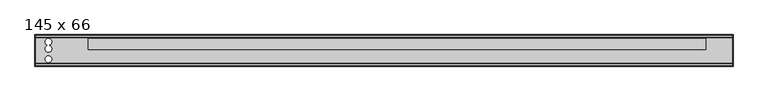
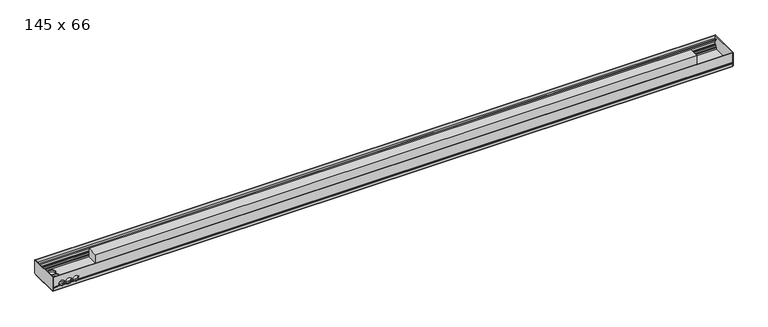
"""IFC4 building model written with IfcOpenShell, lengths in millimetres: proxy geometry, Mohlenhof_Внутрипольный конвектор_QSKM : 145 x 66."""

from ifc_helpers import new_model, si_unit, point, frame, frame_2d, origin, place, context, project, spatial, polyline, circle_curve, ellipse_curve, trimmed, segment, composite_curve, outline, extrude, source, transform, mapped, element, save
from ifc_brep_helpers import plane_surface, revolved_surface, advanced_brep


def proxy_145_x_66_776afb94(model_context):
    return source(origin(), model_context, "Body", "SolidModel", [
        advanced_brep(
        [(1598.0, -245.0, -48.5473602), (1598.0, -243.5, -49.2468216), (1598.0, -242.5, -49.2468216), (1598.0, -242.5, -46.0008038), (1598.0, -240.0, -46.0008038), (1598.0, -240.0, -56.5008038), (1598.0, -242.5, -56.5008038), (1598.0, -242.5, -53.2468216), (1598.0, -243.5, -53.2468216), (1598.0, -245.0, -53.9462831), (1598.0, -245.0, -66.5), (1598.0, -241.0, -66.5), (1598.0, -241.0, -65.2), (1598.0, -243.0, -65.2), (1598.0, -243.0, -62.5), (1598.0, -232.0, -62.5), (1598.0, -232.0, -54.9172677), (1598.0, -233.4172677, -53.5), (1598.0, -237.0, -53.5), (1598.0, -237.0, -45.91), (1598.0, -239.0, -43.91), (1598.0, -239.0, -39.5), (1598.0, -240.0, -39.5), (1598.0, -240.0, -43.5), (1598.0, -242.4956439, -43.5), (1598.0, -242.4956439, -23.0), (1598.0, -240.0, -23.0), (1598.0, -240.0, -27.0), (1598.0, -239.0, -27.0), (1598.0, -239.0, -17.0), (1598.0, -233.3956439, -17.0), (1598.0, -233.3956439, -15.0), (1598.0, -243.4, -15.0), (1598.0, -243.4, 0.0), (1598.0, -245.0, 0.0), (-1598.0, -245.0, -48.5473602), (-1598.0, -245.0, 0.0), (-1598.0, -243.4, 0.0), (-1598.0, -243.4, -15.0), (-1598.0, -233.3956439, -15.0), (-1598.0, -233.3956439, -17.0), (-1598.0, -239.0, -17.0), (-1598.0, -239.0, -27.0), (-1598.0, -240.0, -27.0), (-1598.0, -240.0, -23.0), (-1598.0, -242.4956439, -23.0), (-1598.0, -242.4956439, -43.5), (-1598.0, -240.0, -43.5), (-1598.0, -240.0, -39.5), (-1598.0, -239.0, -39.5), (-1598.0, -239.0, -43.91), (-1598.0, -237.0, -45.91), (-1598.0, -237.0, -53.5), (-1598.0, -233.4172677, -53.5), (-1598.0, -232.0, -54.9172677), (-1598.0, -232.0, -62.5), (-1598.0, -243.0, -62.5), (-1598.0, -243.0, -65.2), (-1598.0, -241.0, -65.2), (-1598.0, -241.0, -66.5), (-1598.0, -245.0, -66.5), (-1598.0, -245.0, -53.9462831), (-1598.0, -243.5, -53.2468216), (-1598.0, -242.5, -53.2468216), (-1598.0, -242.5, -56.5008038), (-1598.0, -240.0, -56.5008038), (-1598.0, -240.0, -46.0008038), (-1598.0, -242.5, -46.0008038), (-1598.0, -242.5, -49.2468216), (-1598.0, -243.5, -49.2468216), (-1478.7585985, -245.0, -48.5473602), (-1479.155283, -243.5, -49.2468216), (-1570.844717, -243.5, -49.2468216), (-1571.2414015, -245.0, -48.5473602), (-1538.2414015, -245.0, -48.5473602), (-1544.7585985, -245.0, -48.5473602), (-1545.155283, -243.5, -49.2468216), (-1537.844717, -243.5, -49.2468216), (-1505.2414015, -245.0, -48.5473602), (-1511.7585985, -245.0, -48.5473602), (-1512.155283, -243.5, -49.2468216), (-1504.844717, -243.5, -49.2468216), (-1479.155283, -242.5, -49.2468216), (-1570.844717, -242.5, -49.2468216), (-1545.155283, -242.5, -49.2468216), (-1537.844717, -242.5, -49.2468216), (-1512.155283, -242.5, -49.2468216), (-1504.844717, -242.5, -49.2468216), (-1477.6911648, -242.5, -46.0008038), (-1572.3088352, -242.5, -46.0008038), (-1543.6911648, -242.5, -46.0008038), (-1539.3088352, -242.5, -46.0008038), (-1510.6911648, -242.5, -46.0008038), (-1506.3088352, -242.5, -46.0008038), (-1477.6911648, -240.0, -46.0008038), (-1572.3088352, -240.0, -46.0008038), (-1543.6911648, -240.0, -46.0008038), (-1539.3088352, -240.0, -46.0008038), (-1510.6911648, -240.0, -46.0008038), (-1506.3088352, -240.0, -46.0008038), (-1567.328032, -242.5, -53.2468216), (-1548.671968, -242.5, -53.2468216), (-1534.328032, -242.5, -53.2468216), (-1515.671968, -242.5, -53.2468216), (-1501.328032, -242.5, -53.2468216), (-1482.671968, -242.5, -53.2468216), (-1482.671968, -243.5, -53.2468216), (-1567.328032, -243.5, -53.2468216), (-1548.671968, -243.5, -53.2468216), (-1534.328032, -243.5, -53.2468216), (-1515.671968, -243.5, -53.2468216), (-1501.328032, -243.5, -53.2468216), (-1483.6280208, -245.0, -53.9462831), (-1566.3719792, -245.0, -53.9462831), (-1549.6280208, -245.0, -53.9462831), (-1533.3719792, -245.0, -53.9462831), (-1516.6280208, -245.0, -53.9462831), (-1500.3719792, -245.0, -53.9462831), (-1564.7064841, -232.0, -54.9172677), (-1551.2935159, -232.0, -54.9172677), (-1531.7064841, -232.0, -54.9172677), (-1518.2935159, -232.0, -54.9172677), (-1498.7064841, -232.0, -54.9172677), (-1485.2935159, -232.0, -54.9172677), (-1483.0, -233.4172677, -53.5), (-1567.0, -233.4172677, -53.5), (-1549.0, -233.4172677, -53.5), (-1534.0, -233.4172677, -53.5), (-1516.0, -233.4172677, -53.5), (-1501.0, -233.4172677, -53.5), (-1483.0, -237.0, -53.5), (-1567.0, -237.0, -53.5), (-1549.0, -237.0, -53.5), (-1534.0, -237.0, -53.5), (-1516.0, -237.0, -53.5), (-1501.0, -237.0, -53.5), (-1477.6629187, -237.0, -45.91), (-1572.3370813, -237.0, -45.91), (-1543.6629187, -237.0, -45.91), (-1539.3370813, -237.0, -45.91), (-1510.6629187, -237.0, -45.91), (-1506.3370813, -237.0, -45.91), (-1477.1948691, -239.0, -43.91), (-1572.8051309, -239.0, -43.91), (-1543.1948691, -239.0, -43.91), (-1539.8051309, -239.0, -43.91), (-1510.1948691, -239.0, -43.91), (-1506.8051309, -239.0, -43.91), (-1477.0, -239.0, -41.5), (-1477.1339313, -239.0, -39.5), (-1572.8660687, -239.0, -39.5), (-1573.0, -239.0, -41.5), (-1543.0, -239.0, -41.5), (-1543.1339313, -239.0, -39.5), (-1539.8660687, -239.0, -39.5), (-1540.0, -239.0, -41.5), (-1510.0, -239.0, -41.5), (-1510.1339313, -239.0, -39.5), (-1506.8660687, -239.0, -39.5), (-1507.0, -239.0, -41.5), (-1477.1339313, -240.0, -39.5), (-1572.8660687, -240.0, -39.5), (-1543.1339313, -240.0, -39.5), (-1539.8660687, -240.0, -39.5), (-1510.1339313, -240.0, -39.5), (-1506.8660687, -240.0, -39.5), (-1477.0, -240.0, -41.5), (-1477.1339313, -240.0, -43.5), (-1572.8660687, -240.0, -43.5), (-1573.0, -240.0, -41.5), (-1543.0, -240.0, -41.5), (-1543.1339313, -240.0, -43.5), (-1539.8660687, -240.0, -43.5), (-1540.0, -240.0, -41.5), (-1510.0, -240.0, -41.5), (-1510.1339313, -240.0, -43.5), (-1506.8660687, -240.0, -43.5), (-1507.0, -240.0, -41.5), (-1477.1339313, -242.4956439, -43.5), (-1572.8660687, -242.4956439, -43.5), (-1543.1339313, -242.4956439, -43.5), (-1539.8660687, -242.4956439, -43.5), (-1510.1339313, -242.4956439, -43.5), (-1506.8660687, -242.4956439, -43.5), (-1477.0, -242.4956439, -41.5), (-1507.0, -242.4956439, -41.5), (-1510.0, -242.4956439, -41.5), (-1540.0, -242.4956439, -41.5), (-1543.0, -242.4956439, -41.5), (-1573.0, -242.4956439, -41.5), (-1561.8405729, -240.0, -27.0), (-1554.1594271, -240.0, -27.0), (-1528.8405729, -240.0, -27.0), (-1521.1594271, -240.0, -27.0), (-1495.8405729, -240.0, -27.0), (-1488.1594271, -240.0, -27.0), (-1488.1594271, -239.0, -27.0), (-1561.8405729, -239.0, -27.0), (-1554.1594271, -239.0, -27.0), (-1528.8405729, -239.0, -27.0), (-1521.1594271, -239.0, -27.0), (-1495.8405729, -239.0, -27.0), (-1573.0, -245.0, -41.5), (-1543.0, -245.0, -41.5), (-1540.0, -245.0, -41.5), (-1510.0, -245.0, -41.5), (-1507.0, -245.0, -41.5), (-1477.0, -245.0, -41.5)],
        [
            (0, 1),
            (1, 2),
            (2, 3),
            (3, 4),
            (4, 5),
            (5, 6),
            (6, 7),
            (7, 8),
            (8, 9),
            (9, 10),
            (10, 11),
            (11, 12),
            (12, 13),
            (13, 14),
            (14, 15),
            (15, 16),
            (16, 17),
            (17, 18),
            (18, 19),
            (19, 20),
            (20, 21),
            (21, 22),
            (22, 23),
            (23, 24),
            (24, 25),
            (25, 26),
            (26, 27),
            (27, 28),
            (28, 29),
            (29, 30),
            (30, 31),
            (31, 32),
            (32, 33),
            (33, 34),
            (34, 0),
            (35, 36),
            (36, 37),
            (37, 38),
            (38, 39),
            (39, 40),
            (40, 41),
            (41, 42),
            (42, 43),
            (43, 44),
            (44, 45),
            (45, 46),
            (46, 47),
            (47, 48),
            (48, 49),
            (49, 50),
            (50, 51),
            (51, 52),
            (52, 53),
            (53, 54),
            (54, 55),
            (55, 56),
            (56, 57),
            (57, 58),
            (58, 59),
            (59, 60),
            (60, 61),
            (61, 62),
            (62, 63),
            (63, 64),
            (64, 65),
            (65, 66),
            (66, 67),
            (67, 68),
            (68, 69),
            (69, 35),
            (0, 70),
            (70, 71, ellipse_curve(frame((-1492.0, -260.1131126, -41.5), z_axis=(0.0, 0.42261826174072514, 0.9063077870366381), x_axis=(0.0, -0.9063077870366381, 0.42261826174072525)), 35.4930237, 15.0)),
            (71, 1),
            (69, 72),
            (72, 73, ellipse_curve(frame((-1558.0, -260.1131126, -41.5), z_axis=(0.0, 0.42261826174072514, 0.9063077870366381), x_axis=(0.0, -0.9063077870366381, 0.42261826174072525)), 35.4930237, 15.0)),
            (73, 35),
            (74, 75),
            (75, 76, ellipse_curve(frame((-1558.0, -260.1131126, -41.5), z_axis=(0.0, 0.42261826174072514, 0.9063077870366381), x_axis=(0.0, -0.9063077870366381, 0.42261826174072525)), 35.4930237, 15.0)),
            (76, 77),
            (77, 74, ellipse_curve(frame((-1525.0, -260.1131126, -41.5), z_axis=(0.0, 0.42261826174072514, 0.9063077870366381), x_axis=(0.0, -0.9063077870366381, 0.42261826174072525)), 35.4930237, 15.0)),
            (78, 79),
            (79, 80, ellipse_curve(frame((-1525.0, -260.1131126, -41.5), z_axis=(0.0, 0.42261826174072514, 0.9063077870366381), x_axis=(0.0, -0.9063077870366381, 0.42261826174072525)), 35.4930237, 15.0)),
            (80, 81),
            (81, 78, ellipse_curve(frame((-1492.0, -260.1131126, -41.5), z_axis=(0.0, 0.42261826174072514, 0.9063077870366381), x_axis=(0.0, -0.9063077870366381, 0.42261826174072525)), 35.4930237, 15.0)),
            (71, 82),
            (82, 2),
            (68, 83),
            (83, 72),
            (76, 84),
            (84, 85),
            (85, 77),
            (80, 86),
            (86, 87),
            (87, 81),
            (82, 88, circle_curve(frame((-1492.0, -242.5, -41.5), z_axis=(0.0, -1.0, 0.0), x_axis=(1.0, 0.0, 0.0)), 15.0)),
            (88, 3),
            (67, 89),
            (89, 83, circle_curve(frame((-1558.0, -242.5, -41.5), z_axis=(0.0, -1.0, 0.0), x_axis=(1.0, 0.0, 0.0)), 15.0)),
            (84, 90, circle_curve(frame((-1558.0, -242.5, -41.5), z_axis=(0.0, -1.0, 0.0), x_axis=(1.0, 0.0, 0.0)), 15.0)),
            (90, 91),
            (91, 85, circle_curve(frame((-1525.0, -242.5, -41.5), z_axis=(0.0, -1.0, 0.0), x_axis=(1.0, 0.0, 0.0)), 15.0)),
            (86, 92, circle_curve(frame((-1525.0, -242.5, -41.5), z_axis=(0.0, -1.0, 0.0), x_axis=(1.0, 0.0, 0.0)), 15.0)),
            (92, 93),
            (93, 87, circle_curve(frame((-1492.0, -242.5, -41.5), z_axis=(0.0, -1.0, 0.0), x_axis=(1.0, 0.0, 0.0)), 15.0)),
            (88, 94),
            (94, 4),
            (66, 95),
            (95, 89),
            (90, 96),
            (96, 97),
            (97, 91),
            (92, 98),
            (98, 99),
            (99, 93),
            (94, 99, circle_curve(frame((-1492.0, -240.0, -41.5), z_axis=(0.0, 1.0, 0.0), x_axis=(1.0, 0.0, 0.0)), 15.0)),
            (98, 97, circle_curve(frame((-1525.0, -240.0, -41.5), z_axis=(0.0, 1.0, 0.0), x_axis=(1.0, 0.0, 0.0)), 15.0)),
            (96, 95, circle_curve(frame((-1558.0, -240.0, -41.5), z_axis=(0.0, 1.0, 0.0), x_axis=(1.0, 0.0, 0.0)), 15.0)),
            (65, 5),
            (64, 6),
            (63, 100),
            (100, 101, circle_curve(frame((-1558.0, -242.5, -41.5), z_axis=(0.0, -1.0, 0.0), x_axis=(1.0, 0.0, 0.0)), 15.0)),
            (101, 102),
            (102, 103, circle_curve(frame((-1525.0, -242.5, -41.5), z_axis=(0.0, -1.0, 0.0), x_axis=(1.0, 0.0, 0.0)), 15.0)),
            (103, 104),
            (104, 105, circle_curve(frame((-1492.0, -242.5, -41.5), z_axis=(0.0, -1.0, 0.0), x_axis=(1.0, 0.0, 0.0)), 15.0)),
            (105, 7),
            (105, 106),
            (106, 8),
            (62, 107),
            (107, 100),
            (101, 108),
            (108, 109),
            (109, 102),
            (103, 110),
            (110, 111),
            (111, 104),
            (106, 112, ellipse_curve(frame((-1492.0, -218.3088597, -41.5), z_axis=(0.0, 0.42261826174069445, -0.9063077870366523), x_axis=(0.0, -0.9063077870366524, -0.42261826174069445)), 35.4930237, 15.0)),
            (112, 9),
            (61, 113),
            (113, 107, ellipse_curve(frame((-1558.0, -218.3088597, -41.5), z_axis=(0.0, 0.42261826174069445, -0.9063077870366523), x_axis=(0.0, -0.9063077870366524, -0.42261826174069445)), 35.4930237, 15.0)),
            (108, 114, ellipse_curve(frame((-1558.0, -218.3088597, -41.5), z_axis=(0.0, 0.42261826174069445, -0.9063077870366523), x_axis=(0.0, -0.9063077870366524, -0.42261826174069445)), 35.4930237, 15.0)),
            (114, 115),
            (115, 109, ellipse_curve(frame((-1525.0, -218.3088597, -41.5), z_axis=(0.0, 0.42261826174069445, -0.9063077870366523), x_axis=(0.0, -0.9063077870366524, -0.42261826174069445)), 35.4930237, 15.0)),
            (110, 116, ellipse_curve(frame((-1525.0, -218.3088597, -41.5), z_axis=(0.0, 0.42261826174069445, -0.9063077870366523), x_axis=(0.0, -0.9063077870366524, -0.42261826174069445)), 35.4930237, 15.0)),
            (116, 117),
            (117, 111, ellipse_curve(frame((-1492.0, -218.3088597, -41.5), z_axis=(0.0, 0.42261826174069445, -0.9063077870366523), x_axis=(0.0, -0.9063077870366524, -0.42261826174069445)), 35.4930237, 15.0)),
            (112, 117, circle_curve(frame((-1492.0, -245.0, -41.5), z_axis=(0.0, 1.0, 0.0), x_axis=(1.0, 0.0, 0.0)), 15.0)),
            (116, 115, circle_curve(frame((-1525.0, -245.0, -41.5), z_axis=(0.0, 1.0, 0.0), x_axis=(1.0, 0.0, 0.0)), 15.0)),
            (114, 113, circle_curve(frame((-1558.0, -245.0, -41.5), z_axis=(0.0, 1.0, 0.0), x_axis=(1.0, 0.0, 0.0)), 15.0)),
            (60, 10),
            (59, 11),
            (58, 12),
            (57, 13),
            (56, 14),
            (55, 15),
            (54, 118),
            (118, 119, circle_curve(frame((-1558.0, -232.0, -41.5), z_axis=(0.0, -1.0, 0.0), x_axis=(1.0, 0.0, 0.0)), 15.0)),
            (119, 120),
            (120, 121, circle_curve(frame((-1525.0, -232.0, -41.5), z_axis=(0.0, -1.0, 0.0), x_axis=(1.0, 0.0, 0.0)), 15.0)),
            (121, 122),
            (122, 123, circle_curve(frame((-1492.0, -232.0, -41.5), z_axis=(0.0, -1.0, 0.0), x_axis=(1.0, 0.0, 0.0)), 15.0)),
            (123, 16),
            (123, 124, ellipse_curve(frame((-1492.0, -245.4172677, -41.5), z_axis=(0.0, -0.7071067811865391, -0.707106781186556), x_axis=(0.0, -0.7071067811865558, 0.7071067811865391)), 21.2132034, 15.0)),
            (124, 17),
            (53, 125),
            (125, 118, ellipse_curve(frame((-1558.0, -245.4172677, -41.5), z_axis=(0.0, -0.7071067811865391, -0.707106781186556), x_axis=(0.0, -0.7071067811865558, 0.7071067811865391)), 21.2132034, 15.0)),
            (119, 126, ellipse_curve(frame((-1558.0, -245.4172677, -41.5), z_axis=(0.0, -0.7071067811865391, -0.707106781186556), x_axis=(0.0, -0.7071067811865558, 0.7071067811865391)), 21.2132034, 15.0)),
            (126, 127),
            (127, 120, ellipse_curve(frame((-1525.0, -245.4172677, -41.5), z_axis=(0.0, -0.7071067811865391, -0.707106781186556), x_axis=(0.0, -0.7071067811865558, 0.7071067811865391)), 21.2132034, 15.0)),
            (121, 128, ellipse_curve(frame((-1525.0, -245.4172677, -41.5), z_axis=(0.0, -0.7071067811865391, -0.707106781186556), x_axis=(0.0, -0.7071067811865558, 0.7071067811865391)), 21.2132034, 15.0)),
            (128, 129),
            (129, 122, ellipse_curve(frame((-1492.0, -245.4172677, -41.5), z_axis=(0.0, -0.7071067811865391, -0.707106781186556), x_axis=(0.0, -0.7071067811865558, 0.7071067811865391)), 21.2132034, 15.0)),
            (124, 130),
            (130, 18),
            (52, 131),
            (131, 125),
            (126, 132),
            (132, 133),
            (133, 127),
            (128, 134),
            (134, 135),
            (135, 129),
            (130, 136, circle_curve(frame((-1492.0, -237.0, -41.5), z_axis=(0.0, -1.0, 0.0), x_axis=(1.0, 0.0, 0.0)), 15.0)),
            (136, 19),
            (51, 137),
            (137, 131, circle_curve(frame((-1558.0, -237.0, -41.5), z_axis=(0.0, -1.0, 0.0), x_axis=(1.0, 0.0, 0.0)), 15.0)),
            (132, 138, circle_curve(frame((-1558.0, -237.0, -41.5), z_axis=(0.0, -1.0, 0.0), x_axis=(1.0, 0.0, 0.0)), 15.0)),
            (138, 139),
            (139, 133, circle_curve(frame((-1525.0, -237.0, -41.5), z_axis=(0.0, -1.0, 0.0), x_axis=(1.0, 0.0, 0.0)), 15.0)),
            (134, 140, circle_curve(frame((-1525.0, -237.0, -41.5), z_axis=(0.0, -1.0, 0.0), x_axis=(1.0, 0.0, 0.0)), 15.0)),
            (140, 141),
            (141, 135, circle_curve(frame((-1492.0, -237.0, -41.5), z_axis=(0.0, -1.0, 0.0), x_axis=(1.0, 0.0, 0.0)), 15.0)),
            (136, 142, ellipse_curve(frame((-1492.0, -241.41, -41.5), z_axis=(0.0, -0.7071067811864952, -0.7071067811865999), x_axis=(0.0, -0.7071067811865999, 0.7071067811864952)), 21.2132034, 15.0)),
            (142, 20),
            (50, 143),
            (143, 137, ellipse_curve(frame((-1558.0, -241.41, -41.5), z_axis=(0.0, -0.7071067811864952, -0.7071067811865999), x_axis=(0.0, -0.7071067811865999, 0.7071067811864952)), 21.2132034, 15.0)),
            (138, 144, ellipse_curve(frame((-1558.0, -241.41, -41.5), z_axis=(0.0, -0.7071067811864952, -0.7071067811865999), x_axis=(0.0, -0.7071067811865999, 0.7071067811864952)), 21.2132034, 15.0)),
            (144, 145),
            (145, 139, ellipse_curve(frame((-1525.0, -241.41, -41.5), z_axis=(0.0, -0.7071067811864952, -0.7071067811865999), x_axis=(0.0, -0.7071067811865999, 0.7071067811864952)), 21.2132034, 15.0)),
            (140, 146, ellipse_curve(frame((-1525.0, -241.41, -41.5), z_axis=(0.0, -0.7071067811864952, -0.7071067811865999), x_axis=(0.0, -0.7071067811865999, 0.7071067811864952)), 21.2132034, 15.0)),
            (146, 147),
            (147, 141, ellipse_curve(frame((-1492.0, -241.41, -41.5), z_axis=(0.0, -0.7071067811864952, -0.7071067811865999), x_axis=(0.0, -0.7071067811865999, 0.7071067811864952)), 21.2132034, 15.0)),
            (142, 148, circle_curve(frame((-1492.0, -239.0, -41.5), z_axis=(0.0, -1.0, 0.0), x_axis=(1.0, 0.0, 0.0)), 15.0)),
            (148, 149, circle_curve(frame((-1492.0, -239.0, -41.5), z_axis=(0.0, -1.0, 0.0), x_axis=(1.0, 0.0, 0.0)), 15.0)),
            (149, 21),
            (49, 150),
            (150, 151, circle_curve(frame((-1558.0, -239.0, -41.5), z_axis=(0.0, -1.0, 0.0), x_axis=(1.0, 0.0, 0.0)), 15.0)),
            (151, 143, circle_curve(frame((-1558.0, -239.0, -41.5), z_axis=(0.0, -1.0, 0.0), x_axis=(1.0, 0.0, 0.0)), 15.0)),
            (144, 152, circle_curve(frame((-1558.0, -239.0, -41.5), z_axis=(0.0, -1.0, 0.0), x_axis=(1.0, 0.0, 0.0)), 15.0)),
            (152, 153, circle_curve(frame((-1558.0, -239.0, -41.5), z_axis=(0.0, -1.0, 0.0), x_axis=(1.0, 0.0, 0.0)), 15.0)),
            (153, 154),
            (154, 155, circle_curve(frame((-1525.0, -239.0, -41.5), z_axis=(0.0, -1.0, 0.0), x_axis=(1.0, 0.0, 0.0)), 15.0)),
            (155, 145, circle_curve(frame((-1525.0, -239.0, -41.5), z_axis=(0.0, -1.0, 0.0), x_axis=(1.0, 0.0, 0.0)), 15.0)),
            (146, 156, circle_curve(frame((-1525.0, -239.0, -41.5), z_axis=(0.0, -1.0, 0.0), x_axis=(1.0, 0.0, 0.0)), 15.0)),
            (156, 157, circle_curve(frame((-1525.0, -239.0, -41.5), z_axis=(0.0, -1.0, 0.0), x_axis=(1.0, 0.0, 0.0)), 15.0)),
            (157, 158),
            (158, 159, circle_curve(frame((-1492.0, -239.0, -41.5), z_axis=(0.0, -1.0, 0.0), x_axis=(1.0, 0.0, 0.0)), 15.0)),
            (159, 147, circle_curve(frame((-1492.0, -239.0, -41.5), z_axis=(0.0, -1.0, 0.0), x_axis=(1.0, 0.0, 0.0)), 15.0)),
            (149, 160),
            (160, 22),
            (48, 161),
            (161, 150),
            (153, 162),
            (162, 163),
            (163, 154),
            (157, 164),
            (164, 165),
            (165, 158),
            (160, 166, circle_curve(frame((-1492.0, -240.0, -41.5), z_axis=(0.0, 1.0, 0.0), x_axis=(1.0, 0.0, 0.0)), 15.0)),
            (166, 167, circle_curve(frame((-1492.0, -240.0, -41.5), z_axis=(0.0, 1.0, 0.0), x_axis=(1.0, 0.0, 0.0)), 15.0)),
            (167, 23),
            (47, 168),
            (168, 169, circle_curve(frame((-1558.0, -240.0, -41.5), z_axis=(0.0, 1.0, 0.0), x_axis=(1.0, 0.0, 0.0)), 15.0)),
            (169, 161, circle_curve(frame((-1558.0, -240.0, -41.5), z_axis=(0.0, 1.0, 0.0), x_axis=(1.0, 0.0, 0.0)), 15.0)),
            (162, 170, circle_curve(frame((-1558.0, -240.0, -41.5), z_axis=(0.0, 1.0, 0.0), x_axis=(1.0, 0.0, 0.0)), 15.0)),
            (170, 171, circle_curve(frame((-1558.0, -240.0, -41.5), z_axis=(0.0, 1.0, 0.0), x_axis=(1.0, 0.0, 0.0)), 15.0)),
            (171, 172),
            (172, 173, circle_curve(frame((-1525.0, -240.0, -41.5), z_axis=(0.0, 1.0, 0.0), x_axis=(1.0, 0.0, 0.0)), 15.0)),
            (173, 163, circle_curve(frame((-1525.0, -240.0, -41.5), z_axis=(0.0, 1.0, 0.0), x_axis=(1.0, 0.0, 0.0)), 15.0)),
            (164, 174, circle_curve(frame((-1525.0, -240.0, -41.5), z_axis=(0.0, 1.0, 0.0), x_axis=(1.0, 0.0, 0.0)), 15.0)),
            (174, 175, circle_curve(frame((-1525.0, -240.0, -41.5), z_axis=(0.0, 1.0, 0.0), x_axis=(1.0, 0.0, 0.0)), 15.0)),
            (175, 176),
            (176, 177, circle_curve(frame((-1492.0, -240.0, -41.5), z_axis=(0.0, 1.0, 0.0), x_axis=(1.0, 0.0, 0.0)), 15.0)),
            (177, 165, circle_curve(frame((-1492.0, -240.0, -41.5), z_axis=(0.0, 1.0, 0.0), x_axis=(1.0, 0.0, 0.0)), 15.0)),
            (167, 178),
            (178, 24),
            (46, 179),
            (179, 168),
            (171, 180),
            (180, 181),
            (181, 172),
            (175, 182),
            (182, 183),
            (183, 176),
            (178, 184, circle_curve(frame((-1492.0, -242.4956439, -41.5), z_axis=(0.0, -1.0, 0.0), x_axis=(1.0, 0.0, 0.0)), 15.0)),
            (184, 185, circle_curve(frame((-1492.0, -242.4956439, -41.5), z_axis=(0.0, -1.0, 0.0), x_axis=(1.0, 0.0, 0.0)), 15.0)),
            (185, 183, circle_curve(frame((-1492.0, -242.4956439, -41.5), z_axis=(0.0, -1.0, 0.0), x_axis=(1.0, 0.0, 0.0)), 15.0)),
            (182, 186, circle_curve(frame((-1525.0, -242.4956439, -41.5), z_axis=(0.0, -1.0, 0.0), x_axis=(1.0, 0.0, 0.0)), 15.0)),
            (186, 187, circle_curve(frame((-1525.0, -242.4956439, -41.5), z_axis=(0.0, -1.0, 0.0), x_axis=(1.0, 0.0, 0.0)), 15.0)),
            (187, 181, circle_curve(frame((-1525.0, -242.4956439, -41.5), z_axis=(0.0, -1.0, 0.0), x_axis=(1.0, 0.0, 0.0)), 15.0)),
            (180, 188, circle_curve(frame((-1558.0, -242.4956439, -41.5), z_axis=(0.0, -1.0, 0.0), x_axis=(1.0, 0.0, 0.0)), 15.0)),
            (188, 189, circle_curve(frame((-1558.0, -242.4956439, -41.5), z_axis=(0.0, -1.0, 0.0), x_axis=(1.0, 0.0, 0.0)), 15.0)),
            (189, 179, circle_curve(frame((-1558.0, -242.4956439, -41.5), z_axis=(0.0, -1.0, 0.0), x_axis=(1.0, 0.0, 0.0)), 15.0)),
            (45, 25),
            (44, 26),
            (43, 190),
            (190, 191, circle_curve(frame((-1558.0, -240.0, -41.5), z_axis=(0.0, 1.0, 0.0), x_axis=(1.0, 0.0, 0.0)), 15.0)),
            (191, 192),
            (192, 193, circle_curve(frame((-1525.0, -240.0, -41.5), z_axis=(0.0, 1.0, 0.0), x_axis=(1.0, 0.0, 0.0)), 15.0)),
            (193, 194),
            (194, 195, circle_curve(frame((-1492.0, -240.0, -41.5), z_axis=(0.0, 1.0, 0.0), x_axis=(1.0, 0.0, 0.0)), 15.0)),
            (195, 27),
            (195, 196),
            (196, 28),
            (42, 197),
            (197, 190),
            (191, 198),
            (198, 199),
            (199, 192),
            (193, 200),
            (200, 201),
            (201, 194),
            (196, 201, circle_curve(frame((-1492.0, -239.0, -41.5), z_axis=(0.0, -1.0, 0.0), x_axis=(1.0, 0.0, 0.0)), 15.0)),
            (200, 199, circle_curve(frame((-1525.0, -239.0, -41.5), z_axis=(0.0, -1.0, 0.0), x_axis=(1.0, 0.0, 0.0)), 15.0)),
            (198, 197, circle_curve(frame((-1558.0, -239.0, -41.5), z_axis=(0.0, -1.0, 0.0), x_axis=(1.0, 0.0, 0.0)), 15.0)),
            (41, 29),
            (40, 30),
            (39, 31),
            (38, 32),
            (37, 33),
            (36, 34),
            (73, 202, circle_curve(frame((-1558.0, -245.0, -41.5), z_axis=(0.0, 1.0, 0.0), x_axis=(1.0, 0.0, 0.0)), 15.0)),
            (202, 203, circle_curve(frame((-1558.0, -245.0, -41.5), z_axis=(0.0, 1.0, 0.0), x_axis=(1.0, 0.0, 0.0)), 15.0)),
            (203, 75, circle_curve(frame((-1558.0, -245.0, -41.5), z_axis=(0.0, 1.0, 0.0), x_axis=(1.0, 0.0, 0.0)), 15.0)),
            (74, 204, circle_curve(frame((-1525.0, -245.0, -41.5), z_axis=(0.0, 1.0, 0.0), x_axis=(1.0, 0.0, 0.0)), 15.0)),
            (204, 205, circle_curve(frame((-1525.0, -245.0, -41.5), z_axis=(0.0, 1.0, 0.0), x_axis=(1.0, 0.0, 0.0)), 15.0)),
            (205, 79, circle_curve(frame((-1525.0, -245.0, -41.5), z_axis=(0.0, 1.0, 0.0), x_axis=(1.0, 0.0, 0.0)), 15.0)),
            (78, 206, circle_curve(frame((-1492.0, -245.0, -41.5), z_axis=(0.0, 1.0, 0.0), x_axis=(1.0, 0.0, 0.0)), 15.0)),
            (206, 207, circle_curve(frame((-1492.0, -245.0, -41.5), z_axis=(0.0, 1.0, 0.0), x_axis=(1.0, 0.0, 0.0)), 15.0)),
            (207, 70, circle_curve(frame((-1492.0, -245.0, -41.5), z_axis=(0.0, 1.0, 0.0), x_axis=(1.0, 0.0, 0.0)), 15.0)),
            (151, 169),
            (189, 202),
            (203, 188),
            (170, 152),
            (155, 173),
            (187, 204),
            (205, 186),
            (174, 156),
            (159, 177),
            (185, 206),
            (207, 184),
            (166, 148),
        ],
        [
            plane_surface(frame((1598.0, -243.0, -62.5), z_axis=(1.0, 0.0, 0.0), x_axis=(0.0, 0.0, 1.0))),
            plane_surface(frame((-1598.0, -243.0, -62.5), z_axis=(-1.0, 0.0, 0.0), x_axis=(0.0, 0.0, 1.0))),
            plane_surface(frame((1598.0, -245.0, -48.5473602), z_axis=(0.0, -0.42261826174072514, -0.9063077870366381), x_axis=(-1.0, 0.0, 0.0))),
            plane_surface(frame((1598.0, -243.5, -49.2468216), z_axis=(0.0, 0.0, -1.0), x_axis=(-1.0, 0.0, 0.0))),
            plane_surface(frame((1598.0, -242.5, -49.2468216), z_axis=(0.0, 1.0, 0.0), x_axis=(-1.0, 0.0, 0.0))),
            plane_surface(frame((1598.0, -242.5, -46.0008038), z_axis=(0.0, 0.0, -1.0), x_axis=(-1.0, 0.0, 0.0))),
            plane_surface(frame((1598.0, -240.0, -46.0008038), z_axis=(0.0, -1.0, 0.0), x_axis=(-1.0, 0.0, 0.0))),
            plane_surface(frame((1598.0, -240.0, -56.5008038), z_axis=(0.0, 0.0, 1.0), x_axis=(-1.0, 0.0, 0.0))),
            plane_surface(frame((1598.0, -242.5, -56.5008038), z_axis=(0.0, 1.0, 0.0), x_axis=(-1.0, 0.0, 0.0))),
            plane_surface(frame((1598.0, -242.5, -53.2468216), z_axis=(0.0, 0.0, 1.0), x_axis=(-1.0, 0.0, 0.0))),
            plane_surface(frame((1598.0, -243.5, -53.2468216), z_axis=(0.0, -0.42261826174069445, 0.9063077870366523), x_axis=(-1.0, 0.0, 0.0))),
            plane_surface(frame((1598.0, -245.0, -53.9462831), z_axis=(0.0, -1.0, 0.0), x_axis=(-1.0, 0.0, 0.0))),
            plane_surface(frame((1598.0, -245.0, -66.5), z_axis=(0.0, 0.0, -1.0), x_axis=(-1.0, 0.0, 0.0))),
            plane_surface(frame((1598.0, -241.0, -66.5), z_axis=(0.0, 1.0, 0.0), x_axis=(-1.0, 0.0, 0.0))),
            plane_surface(frame((1598.0, -241.0, -65.2), z_axis=(0.0, 0.0, 1.0), x_axis=(-1.0, 0.0, 0.0))),
            plane_surface(frame((1598.0, -243.0, -65.2), z_axis=(0.0, 1.0, 0.0), x_axis=(-1.0, 0.0, 0.0))),
            plane_surface(frame((1598.0, -243.0, -62.5), z_axis=(0.0, 0.0, -1.0), x_axis=(-1.0, 0.0, 0.0))),
            plane_surface(frame((1598.0, -232.0, -62.5), z_axis=(0.0, 1.0, 0.0), x_axis=(-1.0, 0.0, 0.0))),
            plane_surface(frame((1598.0, -232.0, -54.9172677), z_axis=(0.0, 0.7071067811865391, 0.707106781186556), x_axis=(-1.0, 0.0, 0.0))),
            plane_surface(frame((1598.0, -233.4172677, -53.5), z_axis=(0.0, 0.0, 1.0), x_axis=(-1.0, 0.0, 0.0))),
            plane_surface(frame((1598.0, -237.0, -53.5), z_axis=(0.0, 1.0, 0.0), x_axis=(-1.0, 0.0, 0.0))),
            plane_surface(frame((1598.0, -237.0, -45.91), z_axis=(0.0, 0.7071067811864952, 0.7071067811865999), x_axis=(-1.0, 0.0, 0.0))),
            plane_surface(frame((1598.0, -239.0, -43.91), z_axis=(0.0, 1.0, 0.0), x_axis=(-1.0, 0.0, 0.0))),
            plane_surface(frame((1598.0, -239.0, -39.5), z_axis=(0.0, 0.0, 1.0), x_axis=(-1.0, 0.0, 0.0))),
            plane_surface(frame((1598.0, -240.0, -39.5), z_axis=(0.0, -1.0, 0.0), x_axis=(-1.0, 0.0, 0.0))),
            plane_surface(frame((1598.0, -240.0, -43.5), z_axis=(0.0, 0.0, 1.0), x_axis=(-1.0, 0.0, 0.0))),
            plane_surface(frame((1598.0, -242.4956439, -43.5), z_axis=(0.0, 1.0, 0.0), x_axis=(-1.0, 0.0, 0.0))),
            plane_surface(frame((1598.0, -242.4956439, -23.0), z_axis=(0.0, 0.0, -1.0), x_axis=(-1.0, 0.0, 0.0))),
            plane_surface(frame((1598.0, -240.0, -23.0), z_axis=(0.0, -1.0, 0.0), x_axis=(-1.0, 0.0, 0.0))),
            plane_surface(frame((1598.0, -240.0, -27.0), z_axis=(0.0, 0.0, -1.0), x_axis=(-1.0, 0.0, 0.0))),
            plane_surface(frame((1598.0, -239.0, -27.0), z_axis=(0.0, 1.0, 0.0), x_axis=(-1.0, 0.0, 0.0))),
            plane_surface(frame((1598.0, -239.0, -17.0), z_axis=(0.0, 0.0, -1.0), x_axis=(-1.0, 0.0, 0.0))),
            plane_surface(frame((1598.0, -233.3956439, -17.0), z_axis=(0.0, 1.0, 0.0), x_axis=(-1.0, 0.0, 0.0))),
            plane_surface(frame((1598.0, -233.3956439, -15.0), z_axis=(0.0, 0.0, 1.0), x_axis=(-1.0, 0.0, 0.0))),
            plane_surface(frame((1598.0, -243.4, -15.0), z_axis=(0.0, 1.0, 0.0), x_axis=(-1.0, 0.0, 0.0))),
            plane_surface(frame((1598.0, -243.4, 0.0), z_axis=(0.0, 0.0, 1.0), x_axis=(-1.0, 0.0, 0.0))),
            plane_surface(frame((1598.0, -245.0, 0.0), z_axis=(0.0, -1.0, 0.0), x_axis=(-1.0, 0.0, 0.0))),
            revolved_surface(polyline([(-1543.0, -250.47646346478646, -41.5), (-1543.0, -186.14125593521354, -41.5)]), (-1558.0, -213.0, -41.5), (0.0, -1.0, 0.0)),
            revolved_surface(polyline([(-1543.0, -292.280716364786, -41.5), (-1543.0, -226.41000002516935, -41.5)]), (-1558.0, -213.0, -41.5), (0.0, -1.0, 0.0)),
            revolved_surface(polyline([(-1543.0, -240.0, -41.5), (-1543.0, -239.0, -41.5)]), (-1558.0, -213.0, -41.5), (0.0, -1.0, 0.0)),
            revolved_surface(polyline([(-1543.0, -245.0, -41.5), (-1543.0, -242.4956439, -41.5)]), (-1558.0, -213.0, -41.5), (0.0, -1.0, 0.0)),
            revolved_surface(polyline([(-1510.0, -250.47646346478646, -41.5), (-1510.0, -186.14125593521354, -41.5)]), (-1525.0, 0.0, -41.5), (0.0, -1.0, 0.0)),
            revolved_surface(polyline([(-1510.0, -292.280716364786, -41.5), (-1510.0, -226.41000002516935, -41.5)]), (-1525.0, 0.0, -41.5), (0.0, -1.0, 0.0)),
            revolved_surface(polyline([(-1510.0, -240.0, -41.5), (-1510.0, -239.0, -41.5)]), (-1525.0, 0.0, -41.5), (0.0, -1.0, 0.0)),
            revolved_surface(polyline([(-1510.0, -245.0, -41.5), (-1510.0, -242.4956439, -41.5)]), (-1525.0, 0.0, -41.5), (0.0, -1.0, 0.0)),
            revolved_surface(polyline([(-1477.0, -250.47646346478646, -41.5), (-1477.0, -186.14125593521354, -41.5)]), (-1492.0, 0.0, -41.5), (0.0, -1.0, 0.0)),
            revolved_surface(polyline([(-1477.0, -292.280716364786, -41.5), (-1477.0, -226.41000002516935, -41.5)]), (-1492.0, 0.0, -41.5), (0.0, -1.0, 0.0)),
            revolved_surface(polyline([(-1477.0, -240.0, -41.5), (-1477.0, -239.0, -41.5)]), (-1492.0, 0.0, -41.5), (0.0, -1.0, 0.0)),
            revolved_surface(polyline([(-1477.0, -245.0, -41.5), (-1477.0, -242.4956439, -41.5)]), (-1492.0, 0.0, -41.5), (0.0, -1.0, 0.0)),
        ],
        [
            (0, [[1, 2, 3, 4, 5, 6, 7, 8, 9, 10, 11, 12, 13, 14, 15, 16, 17, 18, 19, 20, 21, 22, 23, 24, 25, 26, 27, 28, 29, 30, 31, 32, 33, 34, 35]]),
            (1, [[36, 37, 38, 39, 40, 41, 42, 43, 44, 45, 46, 47, 48, 49, 50, 51, 52, 53, 54, 55, 56, 57, 58, 59, 60, 61, 62, 63, 64, 65, 66, 67, 68, 69, 70]]),
            (2, [[-1, 71, 72, 73]]),
            (2, [[-70, 74, 75, 76]]),
            (2, [[77, 78, 79, 80]]),
            (2, [[81, 82, 83, 84]]),
            (3, [[-2, -73, 85, 86]]),
            (3, [[-69, 87, 88, -74]]),
            (3, [[-79, 89, 90, 91]]),
            (3, [[-83, 92, 93, 94]]),
            (4, [[-3, -86, 95, 96]]),
            (4, [[-68, 97, 98, -87]]),
            (4, [[-90, 99, 100, 101]]),
            (4, [[-93, 102, 103, 104]]),
            (5, [[-4, -96, 105, 106]]),
            (5, [[-67, 107, 108, -97]]),
            (5, [[-100, 109, 110, 111]]),
            (5, [[-103, 112, 113, 114]]),
            (6, [[-5, -106, 115, -113, 116, -110, 117, -107, -66, 118]]),
            (7, [[-6, -118, -65, 119]]),
            (8, [[-7, -119, -64, 120, 121, 122, 123, 124, 125, 126]]),
            (9, [[-8, -126, 127, 128]]),
            (9, [[-63, 129, 130, -120]]),
            (9, [[-122, 131, 132, 133]]),
            (9, [[-124, 134, 135, 136]]),
            (10, [[-9, -128, 137, 138]]),
            (10, [[-62, 139, 140, -129]]),
            (10, [[-132, 141, 142, 143]]),
            (10, [[-135, 144, 145, 146]]),
            (11, [[-10, -138, 147, -145, 148, -142, 149, -139, -61, 150]]),
            (12, [[-11, -150, -60, 151]]),
            (13, [[-12, -151, -59, 152]]),
            (14, [[-13, -152, -58, 153]]),
            (15, [[-14, -153, -57, 154]]),
            (16, [[-15, -154, -56, 155]]),
            (17, [[-16, -155, -55, 156, 157, 158, 159, 160, 161, 162]]),
            (18, [[-17, -162, 163, 164]]),
            (18, [[-54, 165, 166, -156]]),
            (18, [[-158, 167, 168, 169]]),
            (18, [[-160, 170, 171, 172]]),
            (19, [[-18, -164, 173, 174]]),
            (19, [[-53, 175, 176, -165]]),
            (19, [[-168, 177, 178, 179]]),
            (19, [[-171, 180, 181, 182]]),
            (20, [[-19, -174, 183, 184]]),
            (20, [[-52, 185, 186, -175]]),
            (20, [[-178, 187, 188, 189]]),
            (20, [[-181, 190, 191, 192]]),
            (21, [[-20, -184, 193, 194]]),
            (21, [[-51, 195, 196, -185]]),
            (21, [[-188, 197, 198, 199]]),
            (21, [[-191, 200, 201, 202]]),
            (22, [[-21, -194, 203, 204, 205]]),
            (22, [[-50, 206, 207, 208, -195]]),
            (22, [[-198, 209, 210, 211, 212, 213]]),
            (22, [[-201, 214, 215, 216, 217, 218]]),
            (23, [[-22, -205, 219, 220]]),
            (23, [[-49, 221, 222, -206]]),
            (23, [[-211, 223, 224, 225]]),
            (23, [[-216, 226, 227, 228]]),
            (24, [[-23, -220, 229, 230, 231]]),
            (24, [[-48, 232, 233, 234, -221]]),
            (24, [[-224, 235, 236, 237, 238, 239]]),
            (24, [[-227, 240, 241, 242, 243, 244]]),
            (25, [[-24, -231, 245, 246]]),
            (25, [[-47, 247, 248, -232]]),
            (25, [[-237, 249, 250, 251]]),
            (25, [[-242, 252, 253, 254]]),
            (26, [[-25, -246, 255, 256, 257, -253, 258, 259, 260, -250, 261, 262, 263, -247, -46, 264]]),
            (27, [[-26, -264, -45, 265]]),
            (28, [[-27, -265, -44, 266, 267, 268, 269, 270, 271, 272]]),
            (29, [[-28, -272, 273, 274]]),
            (29, [[-43, 275, 276, -266]]),
            (29, [[-268, 277, 278, 279]]),
            (29, [[-270, 280, 281, 282]]),
            (30, [[-29, -274, 283, -281, 284, -278, 285, -275, -42, 286]]),
            (31, [[-30, -286, -41, 287]]),
            (32, [[-31, -287, -40, 288]]),
            (33, [[-32, -288, -39, 289]]),
            (34, [[-33, -289, -38, 290]]),
            (35, [[-34, -290, -37, 291]]),
            (36, [[-35, -291, -36, -76, 292, 293, 294, -77, 295, 296, 297, -81, 298, 299, 300, -71]]),
            (37, [[-121, -130, -140, -149, -141, -131]]),
            (38, [[301, -233, -248, -263, 302, -292, -75, -88, -98, -108, -117, -109, -99, -89, -78, -294, 303, -261, -249, -236, 304, -209, -197, -187, -177, -167, -157, -166, -176, -186, -196, -208]]),
            (39, [[-267, -276, -285, -277]]),
            (39, [[-301, -207, -222, -234]]),
            (40, [[-302, -262, -303, -293]]),
            (39, [[-304, -235, -223, -210]]),
            (41, [[-123, -133, -143, -148, -144, -134]]),
            (42, [[305, -238, -251, -260, 306, -295, -80, -91, -101, -111, -116, -112, -102, -92, -82, -297, 307, -258, -252, -241, 308, -214, -200, -190, -180, -170, -159, -169, -179, -189, -199, -213]]),
            (43, [[-269, -279, -284, -280]]),
            (43, [[-305, -212, -225, -239]]),
            (44, [[-306, -259, -307, -296]]),
            (43, [[-308, -240, -226, -215]]),
            (45, [[-125, -136, -146, -147, -137, -127]]),
            (46, [[309, -243, -254, -257, 310, -298, -84, -94, -104, -114, -115, -105, -95, -85, -72, -300, 311, -255, -245, -230, 312, -203, -193, -183, -173, -163, -161, -172, -182, -192, -202, -218]]),
            (47, [[-271, -282, -283, -273]]),
            (47, [[-309, -217, -228, -244]]),
            (48, [[-310, -256, -311, -299]]),
            (47, [[-312, -229, -219, -204]]),
        ],
    ),
        extrude(outline(polyline([(-100.0, -48.5473602), (-101.5, -49.2468216), (-102.5, -49.2468216), (-102.5, -46.0008038), (-105.0, -46.0008038), (-105.0, -56.5008038), (-102.5, -56.5008038), (-102.5, -53.2468216), (-101.5, -53.2468216), (-100.0, -53.9462831), (-100.0, -66.5), (-104.0, -66.5), (-104.0, -65.2), (-102.0, -65.2), (-102.0, -62.5), (-113.0, -62.5), (-113.0, -54.9172677), (-111.5827323, -53.5), (-108.0, -53.5), (-108.0, -45.91), (-106.0, -43.91), (-106.0, -39.5), (-105.0, -39.5), (-105.0, -43.5), (-102.5043561, -43.5), (-102.5043561, -23.0), (-105.0, -23.0), (-105.0, -27.0), (-106.0, -27.0), (-106.0, -17.0), (-111.6043561, -17.0), (-111.6043561, -15.0), (-101.6, -15.0), (-101.6, 0.0), (-100.0, 0.0), (-100.0, -48.5473602)])), frame((-1598.0, 0.0, 0.0), z_axis=(1.0, 0.0, 0.0), x_axis=(0.0, 1.0, 0.0)), (0.0, 0.0, 1.0), 3196.0),
        extrude(outline(polyline([(1598.0, -104.499991), (1598.0, -240.5), (-1598.0, -240.5), (-1598.0, -104.499991), (1598.0, -104.499991)]), holes=[composite_curve([segment(trimmed(circle_curve(frame_2d((-1538.0, -133.0)), 15.0), [point((-1553.0, -133.0))], [point((-1523.0, -133.0))], True, "CARTESIAN"), True, "CONTINUOUS"), segment(trimmed(circle_curve(frame_2d((-1538.0, -133.0)), 15.0), [point((-1523.0, -133.0))], [point((-1553.0, -133.0))], True, "CARTESIAN"), True, "CONTINUOUS")], self_intersect=False), composite_curve([segment(trimmed(circle_curve(frame_2d((-1538.0, -165.0)), 15.0), [point((-1553.0, -165.0))], [point((-1523.0, -165.0))], True, "CARTESIAN"), True, "CONTINUOUS"), segment(trimmed(circle_curve(frame_2d((-1538.0, -165.0)), 15.0), [point((-1523.0, -165.0))], [point((-1553.0, -165.0))], True, "CARTESIAN"), True, "CONTINUOUS")], self_intersect=False), composite_curve([segment(trimmed(circle_curve(frame_2d((-1538.0, -213.0)), 15.0), [point((-1553.0, -213.0))], [point((-1523.0, -213.0))], True, "CARTESIAN"), True, "CONTINUOUS"), segment(trimmed(circle_curve(frame_2d((-1538.0, -213.0)), 15.0), [point((-1523.0, -213.0))], [point((-1553.0, -213.0))], True, "CARTESIAN"), True, "CONTINUOUS")], self_intersect=False)]), frame((0.0, 0.0, -71.5), z_axis=(0.0, 0.0, 1.0), x_axis=(1.0, 0.0, 0.0)), (0.0, 0.0, 1.0), 6.3),
        extrude(outline(polyline([(1598.0, -102.0), (1598.0, -243.0), (-1598.0, -243.0), (-1598.0, -102.0), (1598.0, -102.0)]), holes=[composite_curve([segment(trimmed(circle_curve(frame_2d((-1538.0, -133.0)), 15.0), [point((-1553.0, -133.0))], [point((-1523.0, -133.0))], True, "CARTESIAN"), True, "CONTINUOUS"), segment(trimmed(circle_curve(frame_2d((-1538.0, -133.0)), 15.0), [point((-1523.0, -133.0))], [point((-1553.0, -133.0))], True, "CARTESIAN"), True, "CONTINUOUS")], self_intersect=False), composite_curve([segment(trimmed(circle_curve(frame_2d((-1538.0, -165.0)), 15.0), [point((-1553.0, -165.0))], [point((-1523.0, -165.0))], True, "CARTESIAN"), True, "CONTINUOUS"), segment(trimmed(circle_curve(frame_2d((-1538.0, -165.0)), 15.0), [point((-1523.0, -165.0))], [point((-1553.0, -165.0))], True, "CARTESIAN"), True, "CONTINUOUS")], self_intersect=False), composite_curve([segment(trimmed(circle_curve(frame_2d((-1538.0, -213.0)), 15.0), [point((-1553.0, -213.0))], [point((-1523.0, -213.0))], True, "CARTESIAN"), True, "CONTINUOUS"), segment(trimmed(circle_curve(frame_2d((-1538.0, -213.0)), 15.0), [point((-1523.0, -213.0))], [point((-1553.0, -213.0))], True, "CARTESIAN"), True, "CONTINUOUS")], self_intersect=False)]), frame((0.0, 0.0, -65.2), z_axis=(0.0, 0.0, 1.0), x_axis=(1.0, 0.0, 0.0)), (0.0, 0.0, 1.0), 2.7),
        extrude(outline(polyline([(1475.0, -117.0), (1475.0, -167.0), (-1355.0, -167.0), (-1355.0, -117.0), (1475.0, -117.0)])), frame((0.0, 0.0, -62.5), z_axis=(0.0, 0.0, 1.0), x_axis=(1.0, 0.0, 0.0)), (0.0, 0.0, 1.0), 43.0),
        extrude(outline(polyline([(1600.0, -245.0), (1598.0, -245.0), (1598.0, -100.0), (1600.0, -100.0), (1600.0, -245.0)])), frame((0.0, 0.0, -66.5), z_axis=(0.0, 0.0, 1.0), x_axis=(1.0, 0.0, 0.0)), (0.0, 0.0, 1.0), 66.5),
        extrude(outline(polyline([(-1598.0, -100.0), (-1598.0, -245.0), (-1600.0, -245.0), (-1600.0, -100.0), (-1598.0, -100.0)])), frame((0.0, 0.0, -66.5), z_axis=(0.0, 0.0, 1.0), x_axis=(1.0, 0.0, 0.0)), (0.0, 0.0, 1.0), 66.5),
    ])


if __name__ == "__main__":
    model = new_model("IFC4")
    model_context = context("Model", 3, world=origin())
    ifc_project = project(units=[si_unit("LENGTHUNIT", "METRE", prefix="MILLI")], contexts=[model_context])
    site = spatial("IfcSite", under=ifc_project)
    building = spatial("IfcBuilding", under=site)
    placement = place(None, origin())
    proxy_145_x_66_shape = proxy_145_x_66_776afb94(model_context)
    element("IfcBuildingElementProxy", 1, Name="Mohlenhof_Внутрипольный конвектор_QSKM : 145 x 66", ObjectType="Mohlenhof_Внутрипольный конвектор_QSKM : 145 x 66", at=placement, inside=building, context=model_context, shape_type="MappedRepresentation", body=[
        mapped(proxy_145_x_66_shape, transform((0.0, 0.0, 0.0), x_axis=(1.0, 0.0, 0.0), y_axis=(0.0, 1.0, 0.0), z_axis=(0.0, 0.0, 1.0))),
    ])
    save(model, "model.ifc")
